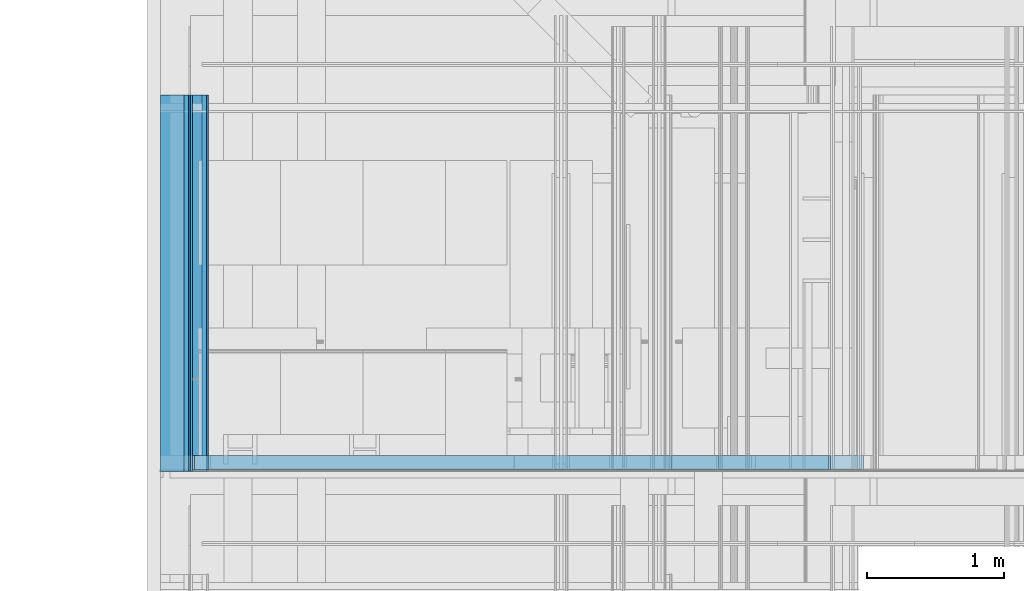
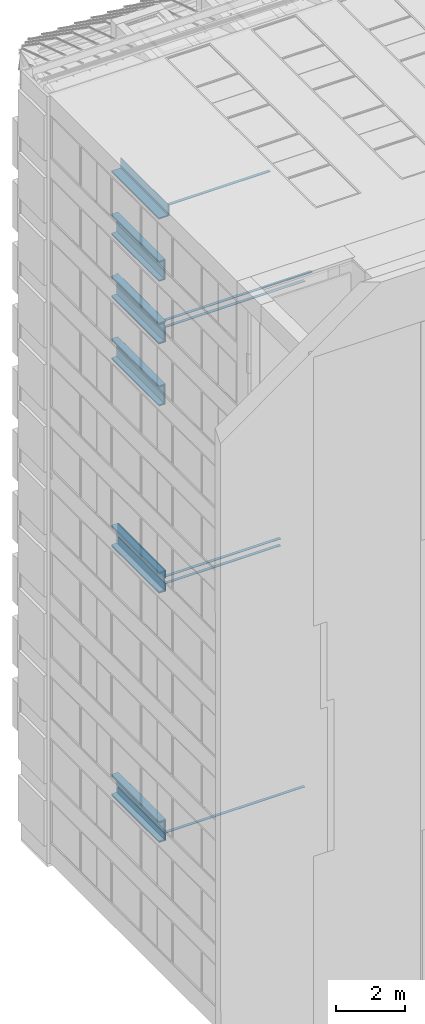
# One storey, part 59 of 583: 55 building element parts, 21 elements without a shape of their own.
"""IFC2X3 building model written with IfcOpenShell, lengths in metres."""

from ifc_helpers import new_model, entity, si_unit, converted_unit, derived_unit, money_unit, direction, frame, frame_2d, origin_with_axes, place, context, subcontext, project, spatial, polyline, rectangle, outline, extrude, material, type_object, element, aggregate, save


model = new_model("IFC2X3")

# Units and contexts
model_context = context("Model", 3, precision=1e-05, world=origin_with_axes(), true_north=direction((0.0, 1.0)))
body_context = subcontext(model_context, "Body", "Model", "MODEL_VIEW", scale=1.0)
ifc_project = project(units=[si_unit("LENGTHUNIT", "METRE"), si_unit("AREAUNIT", "SQUARE_METRE"), si_unit("VOLUMEUNIT", "CUBIC_METRE"), si_unit("ABSORBEDDOSEUNIT", "GRAY"), si_unit("AMOUNTOFSUBSTANCEUNIT", "MOLE"), si_unit("DOSEEQUIVALENTUNIT", "SIEVERT"), si_unit("ELECTRICCAPACITANCEUNIT", "FARAD"), si_unit("ELECTRICCHARGEUNIT", "COULOMB"), si_unit("ELECTRICCONDUCTANCEUNIT", "SIEMENS"), si_unit("ELECTRICCURRENTUNIT", "AMPERE"), si_unit("ELECTRICRESISTANCEUNIT", "OHM"), si_unit("ELECTRICVOLTAGEUNIT", "VOLT"), si_unit("ENERGYUNIT", "JOULE"), si_unit("FORCEUNIT", "NEWTON"), si_unit("FREQUENCYUNIT", "HERTZ"), si_unit("ILLUMINANCEUNIT", "LUX"), si_unit("INDUCTANCEUNIT", "HENRY"), si_unit("LUMINOUSFLUXUNIT", "LUMEN"), si_unit("LUMINOUSINTENSITYUNIT", "CANDELA"), si_unit("MAGNETICFLUXDENSITYUNIT", "TESLA"), si_unit("MAGNETICFLUXUNIT", "WEBER"), si_unit("MASSUNIT", "GRAM"), converted_unit("PLANEANGLEUNIT", "degree", entity("IfcReal", 0.0174532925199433), si_unit("PLANEANGLEUNIT", "RADIAN"), dimensions=[0, 0, 0, 0, 0, 0, 0]), si_unit("POWERUNIT", "WATT"), si_unit("PRESSUREUNIT", "PASCAL"), si_unit("RADIOACTIVITYUNIT", "BECQUEREL"), si_unit("SOLIDANGLEUNIT", "STERADIAN"), si_unit("THERMODYNAMICTEMPERATUREUNIT", "KELVIN"), si_unit("TIMEUNIT", "SECOND"), derived_unit("ACCELERATIONUNIT", [(si_unit("LENGTHUNIT", "METRE"), 1), (si_unit("TIMEUNIT", "SECOND"), -2)]), derived_unit("ANGULARVELOCITYUNIT", [(converted_unit("PLANEANGLEUNIT", "degree", entity("IfcReal", 0.0174532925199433), si_unit("PLANEANGLEUNIT", "RADIAN"), dimensions=[0, 0, 0, 0, 0, 0, 0]), 1), (si_unit("TIMEUNIT", "SECOND"), -1)]), derived_unit("CURVATUREUNIT", [(converted_unit("PLANEANGLEUNIT", "degree", entity("IfcReal", 0.0174532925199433), si_unit("PLANEANGLEUNIT", "RADIAN"), dimensions=[0, 0, 0, 0, 0, 0, 0]), 1), (si_unit("LENGTHUNIT", "METRE"), -1)]), derived_unit("DYNAMICVISCOSITYUNIT", [(si_unit("PRESSUREUNIT", "PASCAL"), 1), (si_unit("TIMEUNIT", "SECOND"), 1)]), derived_unit("HEATFLUXDENSITYUNIT", [(si_unit("POWERUNIT", "WATT"), 1), (si_unit("LENGTHUNIT", "METRE"), -2)]), derived_unit("HEATINGVALUEUNIT", [(si_unit("ENERGYUNIT", "JOULE"), 1), (si_unit("MASSUNIT", "GRAM"), -1)]), derived_unit("INTEGERCOUNTRATEUNIT", [(si_unit("TIMEUNIT", "SECOND"), -1)]), derived_unit("IONCONCENTRATIONUNIT", [(si_unit("MASSUNIT", "GRAM"), 1), (si_unit("VOLUMEUNIT", "CUBIC_METRE"), -1)]), derived_unit("ISOTHERMALMOISTURECAPACITYUNIT", [(si_unit("VOLUMEUNIT", "CUBIC_METRE"), 1), (si_unit("MASSUNIT", "GRAM"), -1)]), derived_unit("KINEMATICVISCOSITYUNIT", [(si_unit("AREAUNIT", "SQUARE_METRE"), 1), (si_unit("TIMEUNIT", "SECOND"), -1)]), derived_unit("LINEARFORCEUNIT", [(si_unit("FORCEUNIT", "NEWTON"), 1), (si_unit("LENGTHUNIT", "METRE"), -1)]), derived_unit("LINEARMOMENTUNIT", [(si_unit("FORCEUNIT", "NEWTON"), 1), (si_unit("LENGTHUNIT", "METRE"), -1)]), derived_unit("LINEARSTIFFNESSUNIT", [(si_unit("FORCEUNIT", "NEWTON"), 1), (si_unit("LENGTHUNIT", "METRE"), -1)]), derived_unit("LINEARVELOCITYUNIT", [(si_unit("LENGTHUNIT", "METRE"), 1), (si_unit("TIMEUNIT", "SECOND"), -1)]), derived_unit("LUMINOUSINTENSITYDISTRIBUTIONUNIT", [(si_unit("LUMINOUSINTENSITYUNIT", "CANDELA"), 1), (si_unit("LUMINOUSFLUXUNIT", "LUMEN"), -1)]), derived_unit("MASSDENSITYUNIT", [(si_unit("MASSUNIT", "GRAM"), 1), (si_unit("VOLUMEUNIT", "CUBIC_METRE"), -1)]), derived_unit("MASSFLOWRATEUNIT", [(si_unit("MASSUNIT", "GRAM"), 1), (si_unit("TIMEUNIT", "SECOND"), -1)]), derived_unit("MASSPERLENGTHUNIT", [(si_unit("MASSUNIT", "GRAM"), 1), (si_unit("LENGTHUNIT", "METRE"), -1)]), derived_unit("MODULUSOFELASTICITYUNIT", [(si_unit("FORCEUNIT", "NEWTON"), 1), (si_unit("AREAUNIT", "SQUARE_METRE"), -1)]), derived_unit("MODULUSOFLINEARSUBGRADEREACTIONUNIT", [(si_unit("FORCEUNIT", "NEWTON"), 1), (si_unit("LENGTHUNIT", "METRE"), -2)]), derived_unit("MODULUSOFROTATIONALSUBGRADEREACTIONUNIT", [(si_unit("FORCEUNIT", "NEWTON"), 1), (si_unit("LENGTHUNIT", "METRE"), 1)]), derived_unit("MODULUSOFSUBGRADEREACTIONUNIT", [(si_unit("FORCEUNIT", "NEWTON"), 1), (si_unit("VOLUMEUNIT", "CUBIC_METRE"), -1)]), derived_unit("MOISTUREDIFFUSIVITYUNIT", [(si_unit("VOLUMEUNIT", "CUBIC_METRE"), 1), (si_unit("TIMEUNIT", "SECOND"), -1)]), derived_unit("MOLECULARWEIGHTUNIT", [(si_unit("MASSUNIT", "GRAM"), 1), (si_unit("AMOUNTOFSUBSTANCEUNIT", "MOLE"), -1)]), derived_unit("PLANARFORCEUNIT", [(si_unit("FORCEUNIT", "NEWTON"), 1), (si_unit("LENGTHUNIT", "METRE"), -2)]), derived_unit("ROTATIONALFREQUENCYUNIT", [(si_unit("TIMEUNIT", "SECOND"), -1)]), derived_unit("ROTATIONALMASSUNIT", [(si_unit("MASSUNIT", "GRAM"), 1), (si_unit("LENGTHUNIT", "METRE"), 2)]), derived_unit("ROTATIONALSTIFFNESSUNIT", [(si_unit("FORCEUNIT", "NEWTON"), 1), (si_unit("LENGTHUNIT", "METRE"), 1), (converted_unit("PLANEANGLEUNIT", "degree", entity("IfcReal", 0.0174532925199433), si_unit("PLANEANGLEUNIT", "RADIAN"), dimensions=[0, 0, 0, 0, 0, 0, 0]), -1)]), derived_unit("SECTIONAREAINTEGRALUNIT", [(si_unit("LENGTHUNIT", "METRE"), 5)]), derived_unit("SECTIONMODULUSUNIT", [(si_unit("LENGTHUNIT", "METRE"), 3)]), derived_unit("SHEARMODULUSUNIT", [(si_unit("FORCEUNIT", "NEWTON"), 1), (si_unit("AREAUNIT", "SQUARE_METRE"), -1)]), derived_unit("SOUNDPOWERUNIT", [(si_unit("ENERGYUNIT", "JOULE"), 1), (si_unit("TIMEUNIT", "SECOND"), -1)]), derived_unit("SPECIFICHEATCAPACITYUNIT", [(si_unit("FORCEUNIT", "NEWTON"), 1), (si_unit("MASSUNIT", "GRAM"), -1), (si_unit("THERMODYNAMICTEMPERATUREUNIT", "KELVIN"), -1)]), derived_unit("TEMPERATUREGRADIENTUNIT", [(si_unit("THERMODYNAMICTEMPERATUREUNIT", "KELVIN"), 1), (si_unit("LENGTHUNIT", "METRE"), -1)]), derived_unit("THERMALADMITTANCEUNIT", [(si_unit("POWERUNIT", "WATT"), 1), (si_unit("AREAUNIT", "SQUARE_METRE"), -1), (si_unit("THERMODYNAMICTEMPERATUREUNIT", "KELVIN"), -1)]), derived_unit("THERMALCONDUCTANCEUNIT", [(si_unit("POWERUNIT", "WATT"), 1), (si_unit("LENGTHUNIT", "METRE"), -1), (si_unit("THERMODYNAMICTEMPERATUREUNIT", "KELVIN"), -1)]), derived_unit("THERMALEXPANSIONCOEFFICIENTUNIT", [(si_unit("THERMODYNAMICTEMPERATUREUNIT", "KELVIN"), -1)]), derived_unit("THERMALRESISTANCEUNIT", [(si_unit("AREAUNIT", "SQUARE_METRE"), 1), (si_unit("POWERUNIT", "WATT"), -1)]), derived_unit("THERMALTRANSMITTANCEUNIT", [(si_unit("POWERUNIT", "WATT"), 1), (si_unit("AREAUNIT", "SQUARE_METRE"), -1), (si_unit("THERMODYNAMICTEMPERATUREUNIT", "KELVIN"), -1)]), derived_unit("TORQUEUNIT", [(si_unit("FORCEUNIT", "NEWTON"), 1), (si_unit("LENGTHUNIT", "METRE"), 1)]), derived_unit("VAPORPERMEABILITYUNIT", [(si_unit("MASSUNIT", "GRAM"), 1), (si_unit("TIMEUNIT", "SECOND"), -1)]), derived_unit("VOLUMETRICFLOWRATEUNIT", [(si_unit("VOLUMEUNIT", "CUBIC_METRE"), 1), (si_unit("TIMEUNIT", "SECOND"), -1)]), derived_unit("WARPINGCONSTANTUNIT", [(si_unit("LENGTHUNIT", "METRE"), 6)]), derived_unit("WARPINGMOMENTUNIT", [(si_unit("FORCEUNIT", "NEWTON"), 1), (si_unit("LENGTHUNIT", "METRE"), 2)]), money_unit("GBP")], contexts=[model_context])

# Site, building, storey
site_placement = place(None, origin_with_axes())
site = spatial("IfcSite", under=ifc_project, at=site_placement, Name="Site", CompositionType="ELEMENT")
building_placement = place(site_placement, origin_with_axes())
building = spatial("IfcBuilding", under=site, at=building_placement, Name="Building01", CompositionType="ELEMENT")
storey_placement = place(building_placement, frame((0.0, 0.0, 20.78), z_axis=(0.0, 0.0, 1.0), x_axis=(1.0, 0.0, 0.0)))
storey = spatial("IfcBuildingStorey", under=building, at=storey_placement, Name="RL", CompositionType="ELEMENT", Elevation=20.78)

# Wall, building element parts
wall_type_1 = type_object("IfcWallType", Name="SHE_A-Walls_Type01c_Partywall_225mm_twin_tall", PredefinedType="NOTDEFINED")
wall_1_placement = place(storey_placement, frame((5.068, 8.64, 1.708), z_axis=(0.0, 1.0, 0.0), x_axis=(-1.0, 0.0, 0.0)))
wall_1 = element("IfcWall", 1, at=wall_1_placement, inside=storey, type_object=wall_type_1, Name="1C", ObjectType="SHE_A-Walls_Type01c_Partywall_225mm_twin_tall")
ifc_material_1 = material(Name="A_BSUK_Walls_Timber")
placement_1 = place(wall_1_placement, origin_with_axes())
building_element_part_1 = element("IfcBuildingElementPart", 2, at=placement_1, material=ifc_material_1, Name="2", context=body_context, shape_type="SweptSolid", body=[
    extrude(outline(polyline([(-0.152, 0.152), (-0.137, 0.137), (4.72, 0.137), (4.72, 0.152), (-0.152, 0.152)])), frame((0.0, 0.0, 0.015), z_axis=(0.0, 0.0, 1.0), x_axis=(1.0, 0.0, 0.0)), (0.0, 0.0, 1.0), 0.1),
])
building_element_part_2 = element("IfcBuildingElementPart", 3, at=placement_1, material=ifc_material_1, Name="7", context=body_context, shape_type="SweptSolid", body=[
    extrude(outline(polyline([(4.72, -0.088), (0.088, -0.088), (0.103, -0.103), (4.72, -0.103), (4.72, -0.088)])), frame((0.0, 0.0, 0.015), z_axis=(0.0, 0.0, 1.0), x_axis=(1.0, 0.0, 0.0)), (0.0, 0.0, 1.0), 0.1),
])
aggregate(wall_1, [building_element_part_1, building_element_part_2])

wall_type_2 = type_object("IfcWallType", Name="SHE_A-Walls_Type06d_ExternalWallInsulation_48mm", PredefinedType="NOTDEFINED")
wall_2_placement = place(storey_placement, frame((0.1, 8.64, -1.017), z_axis=(0.0, 1.0, 0.0), x_axis=(1.0, 0.0, 0.0)))
wall_2 = element("IfcWall", 4, at=wall_2_placement, inside=storey, type_object=wall_type_2, Name="6D", ObjectType="SHE_A-Walls_Type06d_ExternalWallInsulation_48mm")
ifc_material_2 = material(Name="A_BSUK_Insulation")
placement_2 = place(wall_2_placement, origin_with_axes())
building_element_part_3 = element("IfcBuildingElementPart", 5, at=placement_2, material=ifc_material_2, Name="1", context=body_context, shape_type="SweptSolid", body=[
    extrude(outline(polyline([(0.206, 0.036), (0.0, 0.036), (0.0, 0.0), (0.17, 0.0), (0.206, 0.036)])), origin_with_axes(), (0.0, 0.0, 1.0), 2.74),
])
ifc_material_3 = material(Name="A_BSUK_WallInternal_Finishes_Plasterboard")
building_element_part_4 = element("IfcBuildingElementPart", 6, at=placement_2, material=ifc_material_3, Name="3", context=body_context, shape_type="SweptSolid", body=[
    extrude(outline(polyline([(0.218, 0.048), (0.0, 0.048), (0.0, 0.035), (0.205, 0.035), (0.218, 0.048)])), origin_with_axes(), (0.0, 0.0, 1.0), 2.74),
])
aggregate(wall_2, [building_element_part_3, building_element_part_4])

wall_3_placement = place(storey_placement, frame((0.27, 8.64, -0.393), z_axis=(0.0, 1.0, 0.0), x_axis=(-1.0, 0.0, 0.0)))
wall_3 = element("IfcWall", 7, at=wall_3_placement, inside=storey, type_object=wall_type_2, Name="6D", ObjectType="SHE_A-Walls_Type06d_ExternalWallInsulation_48mm")
placement_3 = place(wall_3_placement, origin_with_axes())
building_element_part_5 = element("IfcBuildingElementPart", 8, at=placement_3, material=ifc_material_2, Name="1", context=body_context, shape_type="SweptSolid", body=[
    extrude(outline(polyline([(-0.036, 0.036), (0.0, 0.0), (0.17, 0.0), (0.17, 0.036), (-0.036, 0.036)])), origin_with_axes(), (0.0, 0.0, 1.0), 2.74),
])
building_element_part_6 = element("IfcBuildingElementPart", 9, at=placement_3, material=ifc_material_3, Name="3", context=body_context, shape_type="SweptSolid", body=[
    extrude(outline(polyline([(-0.048, 0.048), (-0.035, 0.035), (0.17, 0.035), (0.17, 0.048), (-0.048, 0.048)])), origin_with_axes(), (0.0, 0.0, 1.0), 2.74),
])
aggregate(wall_3, [building_element_part_5, building_element_part_6])

wall_4_placement = place(storey_placement, frame((0.1, 8.64, 3.363), z_axis=(0.0, 1.0, 0.0), x_axis=(1.0, 0.0, 0.0)))
wall_4 = element("IfcWall", 10, at=wall_4_placement, inside=storey, type_object=wall_type_2, Name="6D", ObjectType="SHE_A-Walls_Type06d_ExternalWallInsulation_48mm")
placement_4 = place(wall_4_placement, origin_with_axes())
building_element_part_7 = element("IfcBuildingElementPart", 11, at=placement_4, material=ifc_material_2, Name="1", context=body_context, shape_type="SweptSolid", body=[
    extrude(outline(polyline([(0.206, 0.036), (0.0, 0.036), (0.0, 0.0), (0.17, 0.0), (0.206, 0.036)])), origin_with_axes(), (0.0, 0.0, 1.0), 2.74),
])
building_element_part_8 = element("IfcBuildingElementPart", 12, at=placement_4, material=ifc_material_3, Name="3", context=body_context, shape_type="SweptSolid", body=[
    extrude(outline(polyline([(0.218, 0.048), (0.0, 0.048), (0.0, 0.035), (0.205, 0.035), (0.218, 0.048)])), origin_with_axes(), (0.0, 0.0, 1.0), 2.74),
])
aggregate(wall_4, [building_element_part_7, building_element_part_8])

wall_5_placement = place(storey_placement, frame((0.27, 8.64, 3.363), z_axis=(0.0, 1.0, 0.0), x_axis=(0.0, 0.0, 1.0)))
wall_5 = element("IfcWall", 13, at=wall_5_placement, inside=storey, type_object=wall_type_2, Name="6D", ObjectType="SHE_A-Walls_Type06d_ExternalWallInsulation_48mm")
placement_5 = place(wall_5_placement, origin_with_axes())
building_element_part_9 = element("IfcBuildingElementPart", 14, at=placement_5, material=ifc_material_2, Name="1", context=body_context, shape_type="SweptSolid", body=[
    extrude(outline(polyline([(0.66, 0.036), (-0.036, 0.036), (0.0, 0.0), (0.624, 0.0), (0.66, 0.036)])), origin_with_axes(), (0.0, 0.0, 1.0), 2.74),
])
building_element_part_10 = element("IfcBuildingElementPart", 15, at=placement_5, material=ifc_material_3, Name="3", context=body_context, shape_type="SweptSolid", body=[
    extrude(outline(polyline([(0.672, 0.048), (-0.048, 0.048), (-0.035, 0.035), (0.659, 0.035), (0.672, 0.048)])), origin_with_axes(), (0.0, 0.0, 1.0), 2.74),
])
aggregate(wall_5, [building_element_part_9, building_element_part_10])

wall_6_placement = place(storey_placement, frame((0.27, 8.64, 3.987), z_axis=(0.0, 1.0, 0.0), x_axis=(-1.0, 0.0, 0.0)))
wall_6 = element("IfcWall", 16, at=wall_6_placement, inside=storey, type_object=wall_type_2, Name="6D", ObjectType="SHE_A-Walls_Type06d_ExternalWallInsulation_48mm")
placement_6 = place(wall_6_placement, origin_with_axes())
building_element_part_11 = element("IfcBuildingElementPart", 17, at=placement_6, material=ifc_material_2, Name="1", context=body_context, shape_type="SweptSolid", body=[
    extrude(outline(polyline([(-0.036, 0.036), (0.0, 0.0), (0.17, 0.0), (0.17, 0.036), (-0.036, 0.036)])), origin_with_axes(), (0.0, 0.0, 1.0), 2.74),
])
building_element_part_12 = element("IfcBuildingElementPart", 18, at=placement_6, material=ifc_material_3, Name="3", context=body_context, shape_type="SweptSolid", body=[
    extrude(outline(polyline([(-0.048, 0.048), (-0.035, 0.035), (0.17, 0.035), (0.17, 0.048), (-0.048, 0.048)])), origin_with_axes(), (0.0, 0.0, 1.0), 2.74),
])
aggregate(wall_6, [building_element_part_11, building_element_part_12])

wall_7_placement = place(storey_placement, frame((0.1, 8.64, 5.553), z_axis=(0.0, 1.0, 0.0), x_axis=(1.0, 0.0, 0.0)))
wall_7 = element("IfcWall", 19, at=wall_7_placement, inside=storey, type_object=wall_type_2, Name="6D", ObjectType="SHE_A-Walls_Type06d_ExternalWallInsulation_48mm")
placement_7 = place(wall_7_placement, origin_with_axes())
building_element_part_13 = element("IfcBuildingElementPart", 20, at=placement_7, material=ifc_material_2, Name="1", context=body_context, shape_type="SweptSolid", body=[
    extrude(outline(polyline([(0.336, 0.036), (0.0, 0.036), (0.0, 0.0), (0.3, 0.0), (0.336, 0.036)])), origin_with_axes(), (0.0, 0.0, 1.0), 2.74),
])
building_element_part_14 = element("IfcBuildingElementPart", 21, at=placement_7, material=ifc_material_3, Name="3", context=body_context, shape_type="SweptSolid", body=[
    extrude(outline(polyline([(0.348, 0.048), (0.0, 0.048), (0.0, 0.035), (0.335, 0.035), (0.348, 0.048)])), origin_with_axes(), (0.0, 0.0, 1.0), 2.74),
])
aggregate(wall_7, [building_element_part_13, building_element_part_14])

wall_8_placement = place(storey_placement, frame((0.4, 8.64, 5.553), z_axis=(0.0, 1.0, 0.0), x_axis=(0.0, 0.0, 1.0)))
wall_8 = element("IfcWall", 22, at=wall_8_placement, inside=storey, type_object=wall_type_2, Name="6D", ObjectType="SHE_A-Walls_Type06d_ExternalWallInsulation_48mm")
placement_8 = place(wall_8_placement, origin_with_axes())
building_element_part_15 = element("IfcBuildingElementPart", 23, at=placement_8, material=ifc_material_2, Name="1", context=body_context, shape_type="SweptSolid", body=[
    extrude(outline(polyline([(0.341, 0.036), (-0.036, 0.036), (0.0, 0.0), (0.377, 0.0), (0.341, 0.036)])), origin_with_axes(), (0.0, 0.0, 1.0), 2.74),
])
building_element_part_16 = element("IfcBuildingElementPart", 24, at=placement_8, material=ifc_material_3, Name="3", context=body_context, shape_type="SweptSolid", body=[
    extrude(outline(polyline([(0.329, 0.048), (-0.048, 0.048), (-0.035, 0.035), (0.342, 0.035), (0.329, 0.048)])), origin_with_axes(), (0.0, 0.0, 1.0), 2.74),
])
aggregate(wall_8, [building_element_part_15, building_element_part_16])

# Wall, building element part
wall_9_placement = place(storey_placement, frame((0.4, 8.64, 5.93), z_axis=(0.0, 1.0, 0.0), x_axis=(1.0, 0.0, 0.0)))
wall_9 = element("IfcWall", 25, at=wall_9_placement, inside=storey, type_object=wall_type_2, Name="6D", ObjectType="SHE_A-Walls_Type06d_ExternalWallInsulation_48mm")
building_element_part_17_placement = place(wall_9_placement, origin_with_axes())
building_element_part_17 = element("IfcBuildingElementPart", 26, at=building_element_part_17_placement, material=ifc_material_1, Name="2", context=body_context, shape_type="SweptSolid", body=[
    extrude(outline(polyline([(0.063, 0.063), (0.048, 0.048), (3.42218, 0.048), (3.42218, 0.063), (0.063, 0.063)])), frame((0.0, 0.0, 0.015), z_axis=(0.0, 0.0, 1.0), x_axis=(1.0, 0.0, 0.0)), (0.0, 0.0, 1.0), 0.1),
])
aggregate(wall_9, [building_element_part_17])

# Wall, building element parts
wall_10_placement = place(storey_placement, frame((4.995, 8.64, -7.2795), z_axis=(0.0, 1.0, 0.0), x_axis=(-1.0, 0.0, 0.0)))
wall_10 = element("IfcWall", 27, at=wall_10_placement, inside=storey, type_object=wall_type_1, Name="1C", ObjectType="SHE_A-Walls_Type01c_Partywall_225mm_twin_tall")
placement_9 = place(wall_10_placement, origin_with_axes())
building_element_part_18 = element("IfcBuildingElementPart", 28, at=placement_9, material=ifc_material_1, Name="2", context=body_context, shape_type="SweptSolid", body=[
    extrude(rectangle(XDim=3.816428, YDim=0.015, at=frame_2d((2.738786, 0.1195), x_axis=(-1.0, 0.0))), frame((0.0, 0.0, 0.015), z_axis=(0.0, 0.0, 1.0), x_axis=(1.0, 0.0, 0.0)), (0.0, 0.0, 1.0), 0.1),
])
building_element_part_19 = element("IfcBuildingElementPart", 29, at=placement_9, material=ifc_material_1, Name="7", context=body_context, shape_type="SweptSolid", body=[
    extrude(rectangle(XDim=3.831428, YDim=0.015, at=frame_2d((2.746286, -0.1205), x_axis=(-1.0, 0.0))), frame((0.0, 0.0, 0.015), z_axis=(0.0, 0.0, 1.0), x_axis=(1.0, 0.0, 0.0)), (0.0, 0.0, 1.0), 0.1),
])
aggregate(wall_10, [building_element_part_18, building_element_part_19])

# Wall, building element part
wall_11_placement = place(storey_placement, frame((0.318, 8.64, -16.258), z_axis=(0.0, 1.0, 0.0), x_axis=(1.0, 0.0, 0.0)))
wall_11 = element("IfcWall", 30, at=wall_11_placement, inside=storey, type_object=wall_type_1, Name="1C", ObjectType="SHE_A-Walls_Type01c_Partywall_225mm_twin_tall")
building_element_part_20_placement = place(wall_11_placement, origin_with_axes())
building_element_part_20 = element("IfcBuildingElementPart", 31, at=building_element_part_20_placement, material=ifc_material_1, Name="7", context=body_context, shape_type="SweptSolid", body=[
    extrude(outline(polyline([(4.662, -0.088), (0.015, -0.088), (0.03, -0.103), (4.647, -0.103), (4.662, -0.088)])), frame((0.0, 0.0, 0.015), z_axis=(0.0, 0.0, 1.0), x_axis=(1.0, 0.0, 0.0)), (0.0, 0.0, 1.0), 0.1),
])
aggregate(wall_11, [building_element_part_20])

# Wall, building element parts
wall_12_placement = place(storey_placement, frame((0.27, 8.64, -1.017), z_axis=(0.0, 1.0, 0.0), x_axis=(0.0, 0.0, 1.0)))
wall_12 = element("IfcWall", 32, at=wall_12_placement, inside=storey, type_object=wall_type_2, Name="6D", ObjectType="SHE_A-Walls_Type06d_ExternalWallInsulation_48mm")
placement_10 = place(wall_12_placement, origin_with_axes())
building_element_part_21 = element("IfcBuildingElementPart", 33, at=placement_10, material=ifc_material_2, Name="1", context=body_context, shape_type="SweptSolid", body=[
    extrude(outline(polyline([(0.66, 0.036), (-0.036, 0.036), (0.0, 0.0), (0.624, 0.0), (0.66, 0.036)])), origin_with_axes(), (0.0, 0.0, 1.0), 2.74),
])
building_element_part_22 = element("IfcBuildingElementPart", 34, at=placement_10, material=ifc_material_3, Name="4", context=body_context, shape_type="SweptSolid", body=[
    extrude(outline(polyline([(0.672, 0.048), (-0.048, 0.048), (-0.035, 0.035), (0.659, 0.035), (0.672, 0.048)])), origin_with_axes(), (0.0, 0.0, 1.0), 2.74),
])
aggregate(wall_12, [building_element_part_21, building_element_part_22])

wall_type_3 = type_object("IfcWallType", Name="SHE_A-Walls_Type06f_ExternalWallInsulation_48+15mm", PredefinedType="NOTDEFINED")
wall_13_placement = place(storey_placement, frame((0.27, 8.64, -7.587), z_axis=(0.0, 1.0, 0.0), x_axis=(1.0, 0.0, 0.0)))
wall_13 = element("IfcWall", 35, at=wall_13_placement, inside=storey, type_object=wall_type_3, Name="6F", ObjectType="SHE_A-Walls_Type06f_ExternalWallInsulation_48+15mm")
placement_11 = place(wall_13_placement, origin_with_axes())
building_element_part_23 = element("IfcBuildingElementPart", 36, at=placement_11, material=ifc_material_2, Name="1", context=body_context, shape_type="SweptSolid", body=[
    extrude(rectangle(XDim=0.17, YDim=0.036, at=frame_2d((-0.085, 0.018), x_axis=(1.0, 0.0))), origin_with_axes(), (0.0, 0.0, 1.0), 2.74),
])
building_element_part_24 = element("IfcBuildingElementPart", 37, at=placement_11, material=ifc_material_3, Name="3", context=body_context, shape_type="SweptSolid", body=[
    extrude(outline(polyline([(-0.17, 0.048), (0.048, 0.048), (0.063, 0.063), (-0.17, 0.063), (-0.17, 0.048)])), origin_with_axes(), (0.0, 0.0, 1.0), 2.74),
])
building_element_part_25 = element("IfcBuildingElementPart", 38, at=placement_11, material=ifc_material_3, Name="4", context=body_context, shape_type="SweptSolid", body=[
    extrude(rectangle(XDim=0.206, YDim=0.012, at=frame_2d((-0.067, 0.042), x_axis=(1.0, 0.0))), origin_with_axes(), (0.0, 0.0, 1.0), 2.74),
])
aggregate(wall_13, [building_element_part_23, building_element_part_24, building_element_part_25])

wall_14_placement = place(storey_placement, frame((0.27, 8.64, -6.926876), z_axis=(0.0, 1.0, 0.0), x_axis=(0.0, 0.0, 1.0)))
wall_14 = element("IfcWall", 39, at=wall_14_placement, inside=storey, type_object=wall_type_3, Name="6F", ObjectType="SHE_A-Walls_Type06f_ExternalWallInsulation_48+15mm")
placement_12 = place(wall_14_placement, origin_with_axes())
building_element_part_26 = element("IfcBuildingElementPart", 40, at=placement_12, material=ifc_material_2, Name="1", context=body_context, shape_type="SweptSolid", body=[
    extrude(rectangle(XDim=0.696124, YDim=0.036, at=frame_2d((-0.348062, 0.018), x_axis=(1.0, 0.0))), origin_with_axes(), (0.0, 0.0, 1.0), 2.74),
])
building_element_part_27 = element("IfcBuildingElementPart", 41, at=placement_12, material=ifc_material_3, Name="3", context=body_context, shape_type="SweptSolid", body=[
    extrude(outline(polyline([(-0.255624, 0.048), (0.012, 0.048), (0.027, 0.063), (-0.255624, 0.063), (-0.255624, 0.048)])), origin_with_axes(), (0.0, 0.0, 1.0), 2.74),
])
building_element_part_28 = element("IfcBuildingElementPart", 42, at=placement_12, material=ifc_material_3, Name="5", context=body_context, shape_type="SweptSolid", body=[
    extrude(outline(polyline([(-0.708124, 0.048), (-0.450624, 0.048), (-0.450624, 0.063), (-0.723124, 0.063), (-0.708124, 0.048)])), origin_with_axes(), (0.0, 0.0, 1.0), 2.74),
])
building_element_part_29 = element("IfcBuildingElementPart", 43, at=placement_12, material=ifc_material_3, Name="6", context=body_context, shape_type="SweptSolid", body=[
    extrude(rectangle(XDim=0.2725, YDim=0.012, at=frame_2d((-0.571874, 0.042), x_axis=(1.0, 0.0))), origin_with_axes(), (0.0, 0.0, 1.0), 2.74),
])
building_element_part_30 = element("IfcBuildingElementPart", 44, at=placement_12, material=ifc_material_3, Name="7", context=body_context, shape_type="SweptSolid", body=[
    extrude(rectangle(XDim=0.270624, YDim=0.012, at=frame_2d((-0.135312, 0.042), x_axis=(1.0, 0.0))), origin_with_axes(), (0.0, 0.0, 1.0), 2.74),
])
aggregate(wall_14, [building_element_part_26, building_element_part_27, building_element_part_28, building_element_part_29, building_element_part_30])

wall_15_placement = place(storey_placement, frame((0.27, 8.64, -6.962876), z_axis=(0.0, 1.0, 0.0), x_axis=(1.0, 0.0, 0.0)))
wall_15 = element("IfcWall", 45, at=wall_15_placement, inside=storey, type_object=wall_type_3, Name="6F", ObjectType="SHE_A-Walls_Type06f_ExternalWallInsulation_48+15mm")
placement_13 = place(wall_15_placement, origin_with_axes())
building_element_part_31 = element("IfcBuildingElementPart", 46, at=placement_13, material=ifc_material_2, Name="1", context=body_context, shape_type="SweptSolid", body=[
    extrude(rectangle(XDim=0.17, YDim=0.036, at=frame_2d((-0.085, -0.018), x_axis=(1.0, 0.0))), origin_with_axes(), (0.0, 0.0, 1.0), 2.74),
])
building_element_part_32 = element("IfcBuildingElementPart", 47, at=placement_13, material=ifc_material_3, Name="3", context=body_context, shape_type="SweptSolid", body=[
    extrude(outline(polyline([(-0.17, -0.063), (0.063, -0.063), (0.048, -0.048), (-0.17, -0.048), (-0.17, -0.063)])), origin_with_axes(), (0.0, 0.0, 1.0), 2.74),
])
building_element_part_33 = element("IfcBuildingElementPart", 48, at=placement_13, material=ifc_material_3, Name="4", context=body_context, shape_type="SweptSolid", body=[
    extrude(rectangle(XDim=0.218, YDim=0.012, at=frame_2d((-0.061, -0.042), x_axis=(1.0, 0.0))), origin_with_axes(), (0.0, 0.0, 1.0), 2.74),
])
aggregate(wall_15, [building_element_part_31, building_element_part_32, building_element_part_33])

wall_16_placement = place(storey_placement, frame((0.27, 8.64, -16.347), z_axis=(0.0, 1.0, 0.0), x_axis=(-1.0, 0.0, 0.0)))
wall_16 = element("IfcWall", 49, at=wall_16_placement, inside=storey, type_object=wall_type_3, Name="6F", ObjectType="SHE_A-Walls_Type06f_ExternalWallInsulation_48+15mm")
placement_14 = place(wall_16_placement, origin_with_axes())
building_element_part_34 = element("IfcBuildingElementPart", 50, at=placement_14, material=ifc_material_2, Name="1", context=body_context, shape_type="SweptSolid", body=[
    extrude(rectangle(XDim=0.17, YDim=0.036, at=frame_2d((0.085, -0.018), x_axis=(-1.0, 0.0))), origin_with_axes(), (0.0, 0.0, 1.0), 2.74),
])
building_element_part_35 = element("IfcBuildingElementPart", 51, at=placement_14, material=ifc_material_3, Name="3", context=body_context, shape_type="SweptSolid", body=[
    extrude(outline(polyline([(0.17, -0.048), (-0.048, -0.048), (-0.063, -0.063), (0.17, -0.063), (0.17, -0.048)])), origin_with_axes(), (0.0, 0.0, 1.0), 2.74),
])
building_element_part_36 = element("IfcBuildingElementPart", 52, at=placement_14, material=ifc_material_3, Name="4", context=body_context, shape_type="SweptSolid", body=[
    extrude(rectangle(XDim=0.206, YDim=0.012, at=frame_2d((0.067, -0.042), x_axis=(-1.0, 0.0))), origin_with_axes(), (0.0, 0.0, 1.0), 2.74),
])
aggregate(wall_16, [building_element_part_34, building_element_part_35, building_element_part_36])

wall_17_placement = place(storey_placement, frame((0.27, 8.64, -15.686876), z_axis=(0.0, 1.0, 0.0), x_axis=(0.0, 0.0, -1.0)))
wall_17 = element("IfcWall", 53, at=wall_17_placement, inside=storey, type_object=wall_type_3, Name="6F", ObjectType="SHE_A-Walls_Type06f_ExternalWallInsulation_48+15mm")
placement_15 = place(wall_17_placement, origin_with_axes())
building_element_part_37 = element("IfcBuildingElementPart", 54, at=placement_15, material=ifc_material_2, Name="1", context=body_context, shape_type="SweptSolid", body=[
    extrude(rectangle(XDim=0.708124, YDim=0.036, at=frame_2d((0.354062, -0.018), x_axis=(-1.0, 0.0))), origin_with_axes(), (0.0, 0.0, 1.0), 2.74),
])
building_element_part_38 = element("IfcBuildingElementPart", 55, at=placement_15, material=ifc_material_3, Name="3", context=body_context, shape_type="SweptSolid", body=[
    extrude(outline(polyline([(0.498124, -0.048), (-0.012, -0.048), (-0.027, -0.063), (0.483124, -0.063), (0.498124, -0.048)])), origin_with_axes(), (0.0, 0.0, 1.0), 2.74),
])
building_element_part_39 = element("IfcBuildingElementPart", 56, at=placement_15, material=ifc_material_3, Name="5", context=body_context, shape_type="SweptSolid", body=[
    extrude(outline(polyline([(0.708124, -0.048), (0.498124, -0.048), (0.483124, -0.063), (0.723124, -0.063), (0.708124, -0.048)])), origin_with_axes(), (0.0, 0.0, 1.0), 2.74),
])
building_element_part_40 = element("IfcBuildingElementPart", 57, at=placement_15, material=ifc_material_3, Name="6", context=body_context, shape_type="SweptSolid", body=[
    extrude(outline(polyline([(0.708124, -0.036), (0.510124, -0.036), (0.498124, -0.048), (0.708124, -0.048), (0.708124, -0.036)])), origin_with_axes(), (0.0, 0.0, 1.0), 2.74),
])
building_element_part_41 = element("IfcBuildingElementPart", 58, at=placement_15, material=ifc_material_3, Name="7", context=body_context, shape_type="SweptSolid", body=[
    extrude(rectangle(XDim=0.621124, YDim=0.012, at=frame_2d((0.310562, -0.042), x_axis=(-1.0, 0.0))), origin_with_axes(), (0.0, 0.0, 1.0), 2.74),
])
aggregate(wall_17, [building_element_part_37, building_element_part_38, building_element_part_39, building_element_part_40, building_element_part_41])

wall_18_placement = place(storey_placement, frame((0.27, 8.64, -15.722876), z_axis=(0.0, 1.0, 0.0), x_axis=(1.0, 0.0, 0.0)))
wall_18 = element("IfcWall", 59, at=wall_18_placement, inside=storey, type_object=wall_type_3, Name="6F", ObjectType="SHE_A-Walls_Type06f_ExternalWallInsulation_48+15mm")
placement_16 = place(wall_18_placement, origin_with_axes())
building_element_part_42 = element("IfcBuildingElementPart", 60, at=placement_16, material=ifc_material_2, Name="1", context=body_context, shape_type="SweptSolid", body=[
    extrude(rectangle(XDim=0.17, YDim=0.036, at=frame_2d((-0.085, -0.018), x_axis=(1.0, 0.0))), origin_with_axes(), (0.0, 0.0, 1.0), 2.74),
])
building_element_part_43 = element("IfcBuildingElementPart", 61, at=placement_16, material=ifc_material_3, Name="3", context=body_context, shape_type="SweptSolid", body=[
    extrude(outline(polyline([(-0.17, -0.063), (0.063, -0.063), (0.048, -0.048), (-0.17, -0.048), (-0.17, -0.063)])), origin_with_axes(), (0.0, 0.0, 1.0), 2.74),
])
building_element_part_44 = element("IfcBuildingElementPart", 62, at=placement_16, material=ifc_material_3, Name="4", context=body_context, shape_type="SweptSolid", body=[
    extrude(rectangle(XDim=0.218, YDim=0.012, at=frame_2d((-0.061, -0.042), x_axis=(1.0, 0.0))), origin_with_axes(), (0.0, 0.0, 1.0), 2.74),
])
aggregate(wall_18, [building_element_part_42, building_element_part_43, building_element_part_44])

wall_19_placement = place(storey_placement, frame((0.27, 8.64, 1.173), z_axis=(0.0, 1.0, 0.0), x_axis=(1.0, 0.0, 0.0)))
wall_19 = element("IfcWall", 63, at=wall_19_placement, inside=storey, type_object=wall_type_3, Name="6F", ObjectType="SHE_A-Walls_Type06f_ExternalWallInsulation_48+15mm")
placement_17 = place(wall_19_placement, origin_with_axes())
building_element_part_45 = element("IfcBuildingElementPart", 64, at=placement_17, material=ifc_material_2, Name="1", context=body_context, shape_type="SweptSolid", body=[
    extrude(rectangle(XDim=0.17, YDim=0.036, at=frame_2d((-0.085, 0.018), x_axis=(1.0, 0.0))), origin_with_axes(), (0.0, 0.0, 1.0), 2.74),
])
building_element_part_46 = element("IfcBuildingElementPart", 65, at=placement_17, material=ifc_material_3, Name="3", context=body_context, shape_type="SweptSolid", body=[
    extrude(outline(polyline([(-0.17, 0.048), (0.048, 0.048), (0.063, 0.063), (-0.17, 0.063), (-0.17, 0.048)])), origin_with_axes(), (0.0, 0.0, 1.0), 2.74),
])
building_element_part_47 = element("IfcBuildingElementPart", 66, at=placement_17, material=ifc_material_3, Name="4", context=body_context, shape_type="SweptSolid", body=[
    extrude(rectangle(XDim=0.206, YDim=0.012, at=frame_2d((-0.067, 0.042), x_axis=(1.0, 0.0))), origin_with_axes(), (0.0, 0.0, 1.0), 2.74),
])
aggregate(wall_19, [building_element_part_45, building_element_part_46, building_element_part_47])

wall_20_placement = place(storey_placement, frame((0.27, 8.64, 1.833124), z_axis=(0.0, 1.0, 0.0), x_axis=(0.0, 0.0, 1.0)))
wall_20 = element("IfcWall", 67, at=wall_20_placement, inside=storey, type_object=wall_type_3, Name="6F", ObjectType="SHE_A-Walls_Type06f_ExternalWallInsulation_48+15mm")
placement_18 = place(wall_20_placement, origin_with_axes())
building_element_part_48 = element("IfcBuildingElementPart", 68, at=placement_18, material=ifc_material_2, Name="1", context=body_context, shape_type="SweptSolid", body=[
    extrude(rectangle(XDim=0.696124, YDim=0.036, at=frame_2d((-0.348062, 0.018), x_axis=(1.0, 0.0))), origin_with_axes(), (0.0, 0.0, 1.0), 2.74),
])
building_element_part_49 = element("IfcBuildingElementPart", 69, at=placement_18, material=ifc_material_3, Name="3", context=body_context, shape_type="SweptSolid", body=[
    extrude(outline(polyline([(0.012, 0.048), (0.027, 0.063), (-0.003124, 0.063), (-0.003124, 0.048), (0.012, 0.048)])), origin_with_axes(), (0.0, 0.0, 1.0), 2.74),
])
building_element_part_50 = element("IfcBuildingElementPart", 70, at=placement_18, material=ifc_material_3, Name="5", context=body_context, shape_type="SweptSolid", body=[
    extrude(outline(polyline([(-0.708124, 0.048), (-0.198124, 0.048), (-0.198124, 0.063), (-0.723124, 0.063), (-0.708124, 0.048)])), origin_with_axes(), (0.0, 0.0, 1.0), 2.74),
])
building_element_part_51 = element("IfcBuildingElementPart", 71, at=placement_18, material=ifc_material_3, Name="6", context=body_context, shape_type="SweptSolid", body=[
    extrude(rectangle(XDim=0.525, YDim=0.012, at=frame_2d((-0.445624, 0.042), x_axis=(1.0, 0.0))), origin_with_axes(), (0.0, 0.0, 1.0), 2.74),
])
building_element_part_52 = element("IfcBuildingElementPart", 72, at=placement_18, material=ifc_material_3, Name="7", context=body_context, shape_type="SweptSolid", body=[
    extrude(rectangle(XDim=0.012, YDim=0.018124, at=frame_2d((-0.009062, 0.042), x_axis=(0.0, 1.0))), origin_with_axes(), (0.0, 0.0, 1.0), 2.74),
])
aggregate(wall_20, [building_element_part_48, building_element_part_49, building_element_part_50, building_element_part_51, building_element_part_52])

wall_21_placement = place(storey_placement, frame((0.27, 8.64, 1.797124), z_axis=(0.0, 1.0, 0.0), x_axis=(1.0, 0.0, 0.0)))
wall_21 = element("IfcWall", 73, at=wall_21_placement, inside=storey, type_object=wall_type_3, Name="6F", ObjectType="SHE_A-Walls_Type06f_ExternalWallInsulation_48+15mm")
placement_19 = place(wall_21_placement, origin_with_axes())
building_element_part_53 = element("IfcBuildingElementPart", 74, at=placement_19, material=ifc_material_2, Name="1", context=body_context, shape_type="SweptSolid", body=[
    extrude(rectangle(XDim=0.17, YDim=0.036, at=frame_2d((-0.085, -0.018), x_axis=(1.0, 0.0))), origin_with_axes(), (0.0, 0.0, 1.0), 2.74),
])
building_element_part_54 = element("IfcBuildingElementPart", 75, at=placement_19, material=ifc_material_3, Name="2", context=body_context, shape_type="SweptSolid", body=[
    extrude(outline(polyline([(-0.17, -0.063), (0.063, -0.063), (0.048, -0.048), (-0.17, -0.048), (-0.17, -0.063)])), origin_with_axes(), (0.0, 0.0, 1.0), 2.74),
])
building_element_part_55 = element("IfcBuildingElementPart", 76, at=placement_19, material=ifc_material_3, Name="4", context=body_context, shape_type="SweptSolid", body=[
    extrude(rectangle(XDim=0.218, YDim=0.012, at=frame_2d((-0.061, -0.042), x_axis=(1.0, 0.0))), origin_with_axes(), (0.0, 0.0, 1.0), 2.74),
])
aggregate(wall_21, [building_element_part_53, building_element_part_54, building_element_part_55])

save(model, "model.ifc")
